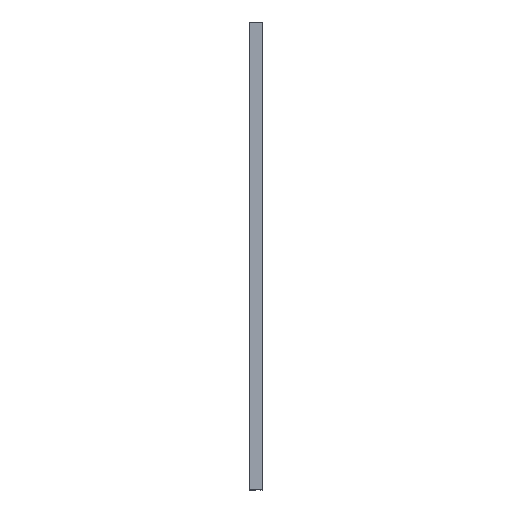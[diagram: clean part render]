
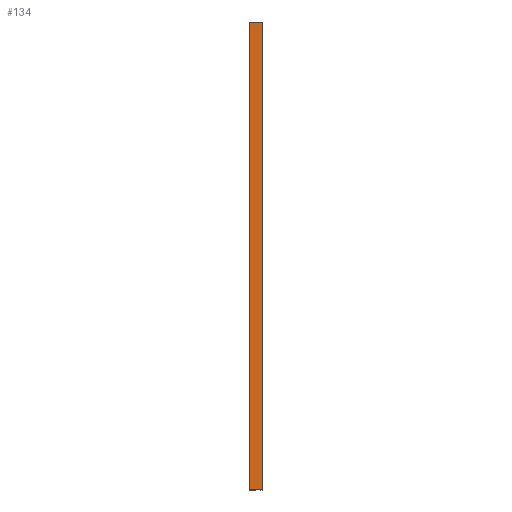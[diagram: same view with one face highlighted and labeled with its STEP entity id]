
A CAD part, left-side view. The second image highlights one B-rep face of the part: STEP entity #134.
In plain terms, the highlighted planar face has unit normal (-1, 0, 0).
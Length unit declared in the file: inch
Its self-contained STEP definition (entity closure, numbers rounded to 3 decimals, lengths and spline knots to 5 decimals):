
#11 = PLANE ( 'NONE',  #97 ) ;
#19 = VERTEX_POINT ( 'NONE', #25 ) ;
#21 = EDGE_CURVE ( 'NONE', #298, #440, #432, .T. ) ;
#23 = ORIENTED_EDGE ( 'NONE', *, *, #262, .F. ) ;
#25 = CARTESIAN_POINT ( 'NONE',  ( 0., 3.5, 0. ) ) ;
#37 = FACE_OUTER_BOUND ( 'NONE', #344, .T. ) ;
#40 = DIRECTION ( 'NONE',  ( 0., 0., -1. ) ) ;
#41 = VECTOR ( 'NONE', #40, 39.37008 ) ;
#50 = ORIENTED_EDGE ( 'NONE', *, *, #170, .T. ) ;
#59 = ORIENTED_EDGE ( 'NONE', *, *, #336, .T. ) ;
#97 = AXIS2_PLACEMENT_3D ( 'NONE', #160, #365, #153 ) ;
#119 = CARTESIAN_POINT ( 'NONE',  ( 0., 3.5, 120. ) ) ;
#125 = VERTEX_POINT ( 'NONE', #401 ) ;
#134 = ADVANCED_FACE ( 'NONE', ( #37 ), #11, .F. ) ;
#137 = DIRECTION ( 'NONE',  ( 0., -1., 0. ) ) ;
#153 = DIRECTION ( 'NONE',  ( 0., 0., -1. ) ) ;
#160 = CARTESIAN_POINT ( 'NONE',  ( 0., 0.05, 120. ) ) ;
#170 = EDGE_CURVE ( 'NONE', #298, #19, #319, .T. ) ;
#174 = CARTESIAN_POINT ( 'NONE',  ( 0., 0.05, 0. ) ) ;
#182 = CARTESIAN_POINT ( 'NONE',  ( 0., 0.05, 120. ) ) ;
#190 = CARTESIAN_POINT ( 'NONE',  ( 0., 0.05, 120. ) ) ;
#204 = VECTOR ( 'NONE', #137, 39.37008 ) ;
#259 = CARTESIAN_POINT ( 'NONE',  ( 0., 3.5, 120. ) ) ;
#262 = EDGE_CURVE ( 'NONE', #440, #125, #268, .T. ) ;
#268 = LINE ( 'NONE', #271, #41 ) ;
#271 = CARTESIAN_POINT ( 'NONE',  ( 0., 0.05, 120. ) ) ;
#272 = VECTOR ( 'NONE', #325, 39.37008 ) ;
#298 = VERTEX_POINT ( 'NONE', #119 ) ;
#319 = LINE ( 'NONE', #259, #272 ) ;
#325 = DIRECTION ( 'NONE',  ( 0., 0., -1. ) ) ;
#334 = ORIENTED_EDGE ( 'NONE', *, *, #21, .F. ) ;
#336 = EDGE_CURVE ( 'NONE', #19, #125, #381, .T. ) ;
#341 = VECTOR ( 'NONE', #398, 39.37008 ) ;
#344 = EDGE_LOOP ( 'NONE', ( #59, #23, #334, #50 ) ) ;
#365 = DIRECTION ( 'NONE',  ( 1., 0., 0. ) ) ;
#381 = LINE ( 'NONE', #174, #204 ) ;
#398 = DIRECTION ( 'NONE',  ( 0., -1., 0. ) ) ;
#401 = CARTESIAN_POINT ( 'NONE',  ( 0., 0.05, 0. ) ) ;
#432 = LINE ( 'NONE', #190, #341 ) ;
#440 = VERTEX_POINT ( 'NONE', #182 ) ;
